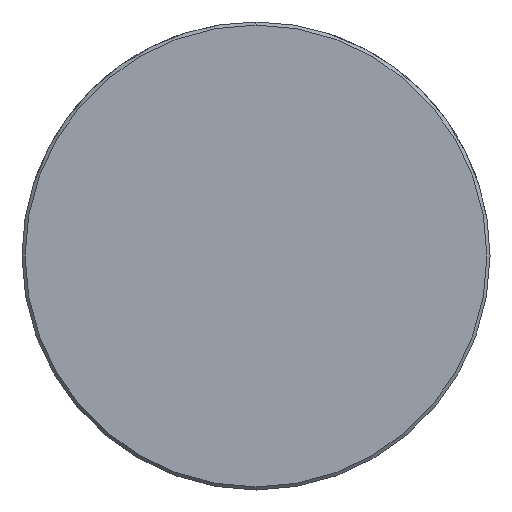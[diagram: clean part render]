
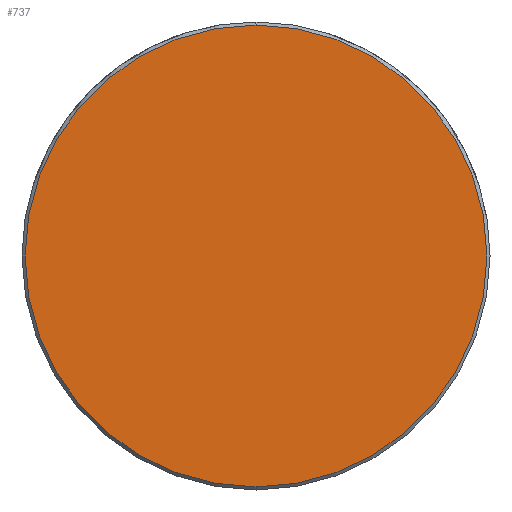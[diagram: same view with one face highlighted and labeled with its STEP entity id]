
A CAD part, left-side view. The second image highlights one B-rep face of the part: STEP entity #737.
In plain terms, the highlighted planar face has unit normal (-1, 0, 0).
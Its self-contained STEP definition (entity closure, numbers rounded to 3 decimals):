
#669=CARTESIAN_POINT('Vertex',(0.,0.,-22.2)) ;
#672=CARTESIAN_POINT('Axis2P3D Location',(0.,0.,0.)) ;
#676=CARTESIAN_POINT('Vertex',(0.,22.2,0.)) ;
#679=CARTESIAN_POINT('Axis2P3D Location',(0.,0.,0.)) ;
#683=CARTESIAN_POINT('Vertex',(0.,0.,22.2)) ;
#705=CARTESIAN_POINT('Axis2P3D Location',(0.,0.,0.)) ;
#709=CARTESIAN_POINT('Vertex',(0.,-22.2,0.)) ;
#712=CARTESIAN_POINT('Axis2P3D Location',(0.,0.,0.)) ;
#726=CARTESIAN_POINT('Axis2P3D Location',(0.,0.,0.)) ;
#673=DIRECTION('Axis2P3D Direction',(1.,0.,-0.)) ;
#680=DIRECTION('Axis2P3D Direction',(1.,0.,-0.)) ;
#706=DIRECTION('Axis2P3D Direction',(1.,0.,-0.)) ;
#713=DIRECTION('Axis2P3D Direction',(1.,0.,-0.)) ;
#727=DIRECTION('Axis2P3D Direction',(1.,0.,-0.)) ;
#728=DIRECTION('Axis2P3D XDirection',(-0.,0.,-1.)) ;
#674=AXIS2_PLACEMENT_3D('Circle Axis2P3D',#672,#673,$) ;
#681=AXIS2_PLACEMENT_3D('Circle Axis2P3D',#679,#680,$) ;
#707=AXIS2_PLACEMENT_3D('Circle Axis2P3D',#705,#706,$) ;
#714=AXIS2_PLACEMENT_3D('Circle Axis2P3D',#712,#713,$) ;
#729=AXIS2_PLACEMENT_3D('Plane Axis2P3D',#726,#727,#728) ;
#732=ORIENTED_EDGE('',*,*,#678,.F.) ;
#733=ORIENTED_EDGE('',*,*,#716,.F.) ;
#734=ORIENTED_EDGE('',*,*,#711,.F.) ;
#735=ORIENTED_EDGE('',*,*,#685,.F.) ;
#737=ADVANCED_FACE('549-40X320',(#736),#730,.F.) ;
#675=CIRCLE('generated circle',#674,22.2) ;
#682=CIRCLE('generated circle',#681,22.2) ;
#708=CIRCLE('generated circle',#707,22.2) ;
#715=CIRCLE('generated circle',#714,22.2) ;
#678=EDGE_CURVE('',#670,#677,#675,.T.) ;
#685=EDGE_CURVE('',#677,#684,#682,.T.) ;
#711=EDGE_CURVE('',#684,#710,#708,.T.) ;
#716=EDGE_CURVE('',#710,#670,#715,.T.) ;
#731=EDGE_LOOP('',(#732,#733,#734,#735)) ;
#736=FACE_OUTER_BOUND('',#731,.T.) ;
#730=PLANE('Plane',#729) ;
#670=VERTEX_POINT('',#669) ;
#677=VERTEX_POINT('',#676) ;
#684=VERTEX_POINT('',#683) ;
#710=VERTEX_POINT('',#709) ;
